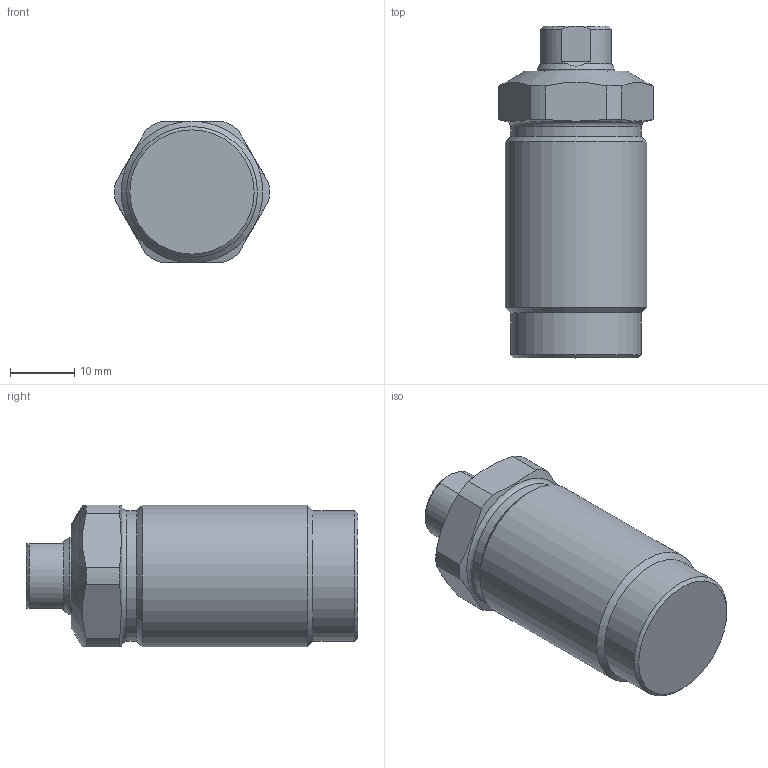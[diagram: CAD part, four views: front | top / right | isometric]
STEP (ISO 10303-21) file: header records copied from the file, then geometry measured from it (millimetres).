
FILE_DESCRIPTION(/* description */ (''),/* implementation_level */ '2;1');
FILE_NAME(/* name */ 'TGM03-15.stp',/* time_stamp */ '2024-08-27T08:23:54+08:00',/* author */ (''),/* organization */ (''),/* preprocessor_version */ 'ST-DEVELOPER v16.7',/* originating_system */ 'SIEMENS PLM Software NX 12.0',/* authorisation */ '');
FILE_SCHEMA (('AUTOMOTIVE_DESIGN { 1 0 10303 214 3 1 1 1 }'));
Length unit declared in the file: millimetre
Products named in the file (3): TGM03-15BODY_1; TGM03-15BODY_2; TGM03-15_x_t
Assembly tree (2 placements, depth 2):
  TGM03-15_x_t
    TGM03-15BODY_2
    TGM03-15BODY_1
Bounding box: 23.98 x 51.5 x 22 mm (x, y, z)
Volume: 16780.9 mm3; surface area: 5499.9 mm2
Topology: 2 solids, 2 shells, 42 faces, 100 edges, 64 vertices
Faces by surface type: plane 16, cylinder 15, cone 10, torus 1
Full cylindrical faces by diameter (mm): 5.1 x1, 6 x1, 12 x2, 20.3 x2, 22 x1
Entity records: 1170 total; most frequent: CARTESIAN_POINT 238, DIRECTION 192, ORIENTED_EDGE 152, AXIS2_PLACEMENT_3D 87, EDGE_CURVE 76, EDGE_LOOP 60, VERTEX_POINT 57, ADVANCED_FACE 42
